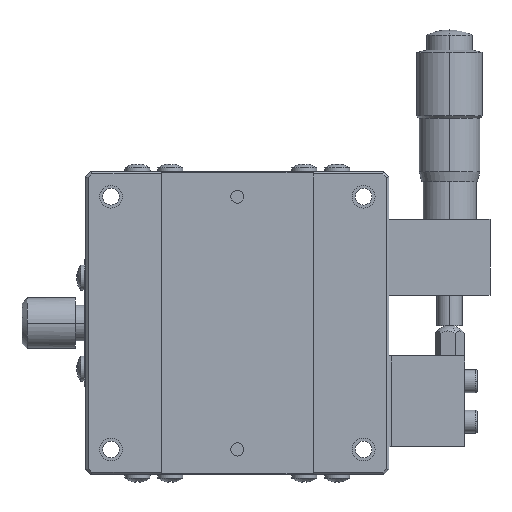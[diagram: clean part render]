
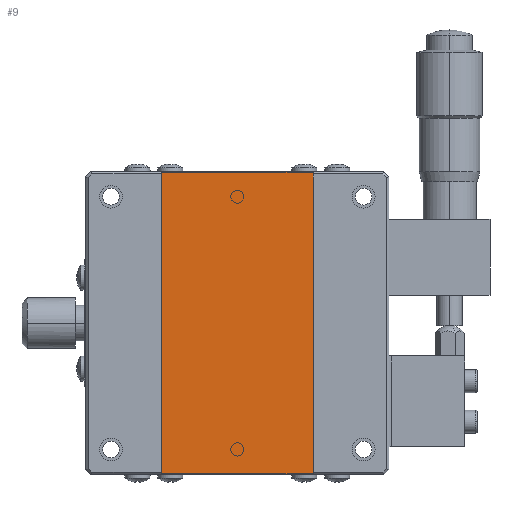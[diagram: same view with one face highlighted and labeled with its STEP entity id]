
A CAD part, front view. The second image highlights one B-rep face of the part: STEP entity #9.
In plain terms, the highlighted planar face has unit normal (0, 1, 0).
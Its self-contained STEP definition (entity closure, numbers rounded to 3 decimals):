
#9 = ADVANCED_FACE ( 'NONE', ( #1848 ), #7752, .T. ) ;
#1183 = VECTOR ( 'NONE', #10259, 1000. ) ;
#1721 = ORIENTED_EDGE ( 'NONE', *, *, #12764, .T. ) ;
#1848 = FACE_OUTER_BOUND ( 'NONE', #5364, .T. ) ;
#1955 = CARTESIAN_POINT ( 'NONE',  ( -104.048, 19.106, -33.825 ) ) ;
#2017 = DIRECTION ( 'NONE',  ( 0., 0., 1. ) ) ;
#2559 = VERTEX_POINT ( 'NONE', #5899 ) ;
#3064 = CARTESIAN_POINT ( 'NONE',  ( -104.048, 19.106, 35.314 ) ) ;
#3503 = DIRECTION ( 'NONE',  ( 0., 0., -1. ) ) ;
#3586 = DIRECTION ( 'NONE',  ( -1., 0., 0. ) ) ;
#4181 = DIRECTION ( 'NONE',  ( 0., 0., 1. ) ) ;
#4428 = VERTEX_POINT ( 'NONE', #1955 ) ;
#4564 = CARTESIAN_POINT ( 'NONE',  ( -74.048, 19.106, 25.775 ) ) ;
#5364 = EDGE_LOOP ( 'NONE', ( #6965, #1721, #13361, #5865 ) ) ;
#5398 = LINE ( 'NONE', #12860, #14320 ) ;
#5525 = CARTESIAN_POINT ( 'NONE',  ( -74.048, 19.106, -33.825 ) ) ;
#5865 = ORIENTED_EDGE ( 'NONE', *, *, #7014, .T. ) ;
#5899 = CARTESIAN_POINT ( 'NONE',  ( -104.048, 19.106, 25.775 ) ) ;
#6965 = ORIENTED_EDGE ( 'NONE', *, *, #9594, .T. ) ;
#7014 = EDGE_CURVE ( 'NONE', #12966, #7483, #10201, .T. ) ;
#7483 = VERTEX_POINT ( 'NONE', #5525 ) ;
#7498 = VECTOR ( 'NONE', #2017, 1000. ) ;
#7752 = PLANE ( 'NONE',  #9754 ) ;
#8912 = CARTESIAN_POINT ( 'NONE',  ( -74.048, 19.106, 35.314 ) ) ;
#8949 = LINE ( 'NONE', #3064, #7498 ) ;
#9594 = EDGE_CURVE ( 'NONE', #7483, #4428, #5398, .T. ) ;
#9754 = AXIS2_PLACEMENT_3D ( 'NONE', #8912, #13433, #4181 ) ;
#9824 = VECTOR ( 'NONE', #3503, 1000. ) ;
#10201 = LINE ( 'NONE', #12612, #9824 ) ;
#10259 = DIRECTION ( 'NONE',  ( 1., 0., 0. ) ) ;
#11700 = LINE ( 'NONE', #4564, #1183 ) ;
#12307 = EDGE_CURVE ( 'NONE', #2559, #12966, #11700, .T. ) ;
#12612 = CARTESIAN_POINT ( 'NONE',  ( -74.048, 19.106, 35.314 ) ) ;
#12764 = EDGE_CURVE ( 'NONE', #4428, #2559, #8949, .T. ) ;
#12841 = CARTESIAN_POINT ( 'NONE',  ( -74.048, 19.106, 25.775 ) ) ;
#12860 = CARTESIAN_POINT ( 'NONE',  ( -74.048, 19.106, -33.825 ) ) ;
#12966 = VERTEX_POINT ( 'NONE', #12841 ) ;
#13361 = ORIENTED_EDGE ( 'NONE', *, *, #12307, .T. ) ;
#13433 = DIRECTION ( 'NONE',  ( 0., 1., 0. ) ) ;
#14320 = VECTOR ( 'NONE', #3586, 1000. ) ;
